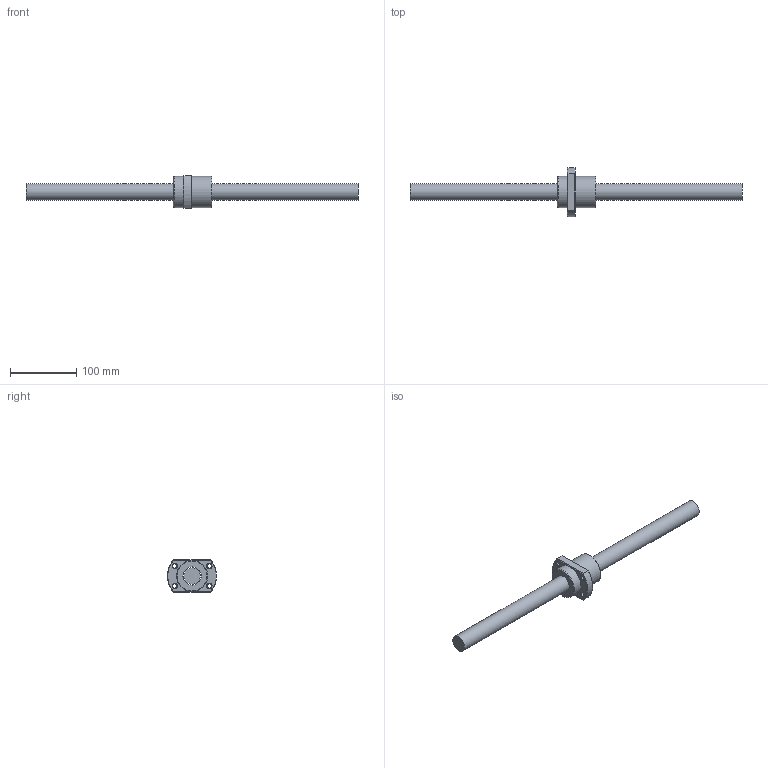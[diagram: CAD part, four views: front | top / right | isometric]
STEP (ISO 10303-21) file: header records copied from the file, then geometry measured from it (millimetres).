
FILE_DESCRIPTION (( 'STEP AP203' ), '1' );
FILE_NAME ('SFYA02550-1.6.step', '2024-05-22T07:52:01', ( '' ), ( '' ), 'SwSTEP 2.0', 'SolidWorks 2022', '' );
FILE_SCHEMA (( 'CONFIG_CONTROL_DESIGN' ));
Length unit declared in the file: millimetre
Products named in the file (1): SFYA02550-1.6
Bounding box: 500 x 73.88 x 49 mm (x, y, z)
Volume: 328677.8 mm3; surface area: 60847.4 mm2
Topology: 2 solids, 2 shells, 51 faces, 124 edges, 79 vertices
Faces by surface type: cylinder 18, plane 13, cone 9, torus 6, bspline 5
Full cylindrical faces by diameter (mm): 3 x1, 5 x6, 6.6 x4, 25 x1, 27.5 x1, 47 x2
Entity records: 3010 total; most frequent: CARTESIAN_POINT 2057, DIRECTION 170, ORIENTED_EDGE 156, EDGE_LOOP 80, EDGE_CURVE 78, AXIS2_PLACEMENT_3D 77, VERTEX_POINT 62, FACE_OUTER_BOUND 57
